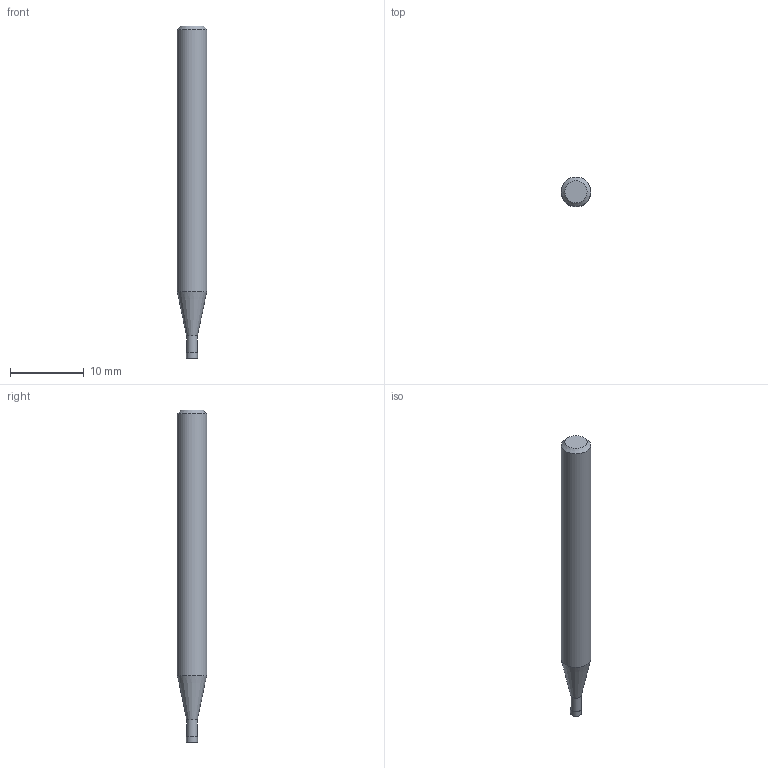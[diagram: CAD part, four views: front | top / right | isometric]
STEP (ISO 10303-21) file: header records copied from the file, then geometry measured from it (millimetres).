
FILE_DESCRIPTION((''),'2;1');
FILE_NAME('C:\Users\nsx150\AppData\Local\Temp\Mastercam 2021\CC00YWH0Y5\TEMP.step','2021-04-08T15:19:46',(''),(''),'STEP Write','Mastercam 2021 ... CNC Software, Inc.','');
FILE_SCHEMA(('AUTOMOTIVE_DESIGN'));
Length unit declared in the file: millimetre
Products named in the file (1): None
Bounding box: 4 x 4 x 45 mm (x, y, z)
Volume: 493.5 mm3; surface area: 532.4 mm2
Topology: 2 solids, 2 shells, 9 faces, 12 edges, 7 vertices
Faces by surface type: plane 4, cylinder 3, cone 2
Full cylindrical faces by diameter (mm): 1.45 x1, 1.5 x1, 4 x1
Entity records: 211 total; most frequent: DIRECTION 36, CARTESIAN_POINT 25, AXIS2_PLACEMENT_3D 18, ORIENTED_EDGE 14, EDGE_LOOP 14, STYLED_ITEM 12, ADVANCED_FACE 9, FACE_BOUND 8
